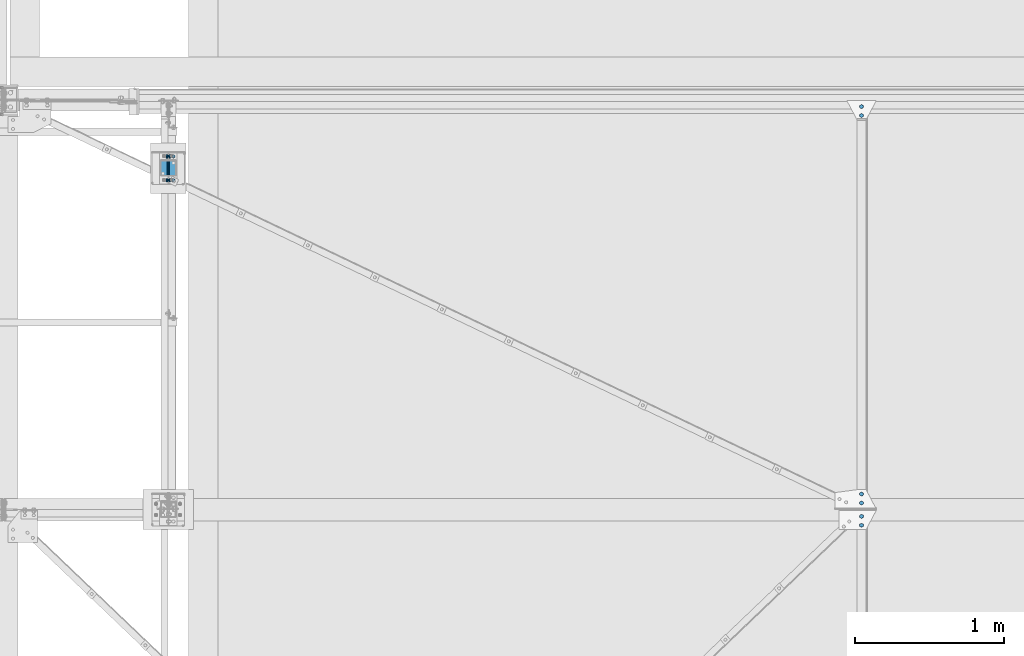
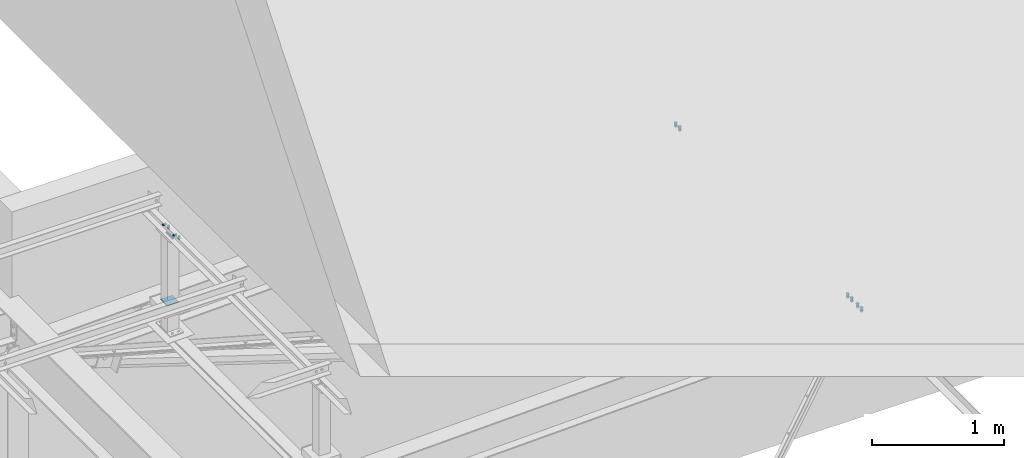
# One storey, part 220 of 3134: 7 mechanical fasteners, 4 elements without a shape of their own.
"""IFC2X3 building model written with IfcOpenShell, lengths in millimetres."""

from ifc_helpers import new_model, si_unit, frame, origin_with_axes, place, context, subcontext, project, spatial, faceted_brep, source, transform, mapped, material, type_object, element, aggregate, save


model = new_model("IFC2X3")

# Units and contexts
model_context = context("Model", 3, precision=1e-05, world=origin_with_axes())
body_context = subcontext(model_context, "Body", "Model", "MODEL_VIEW")
ifc_project = project(units=[si_unit("LENGTHUNIT", "METRE", prefix="MILLI"), si_unit("AREAUNIT", "SQUARE_METRE"), si_unit("VOLUMEUNIT", "CUBIC_METRE"), si_unit("MASSUNIT", "GRAM", prefix="KILO"), si_unit("TIMEUNIT", "SECOND"), si_unit("PLANEANGLEUNIT", "RADIAN"), si_unit("SOLIDANGLEUNIT", "STERADIAN"), si_unit("THERMODYNAMICTEMPERATUREUNIT", "DEGREE_CELSIUS"), si_unit("LUMINOUSINTENSITYUNIT", "LUMEN")], contexts=[model_context])

# Site, building, storey
site_placement = place(None, origin_with_axes())
site = spatial("IfcSite", under=ifc_project, at=site_placement, CompositionType="ELEMENT")
building_placement = place(site_placement, origin_with_axes())
building = spatial("IfcBuilding", under=site, at=building_placement, Name="Undefined", CompositionType="ELEMENT")
storey_placement = place(building_placement, origin_with_axes())
storey = spatial("IfcBuildingStorey", under=building, at=storey_placement, Name="Undefined", CompositionType="ELEMENT", Elevation=0.0)

# Assembly, mechanical fastener
assembly_1_placement = place(storey_placement, origin_with_axes())
assembly_1 = element("IfcElementAssembly", 1, at=assembly_1_placement, inside=storey, AssemblyPlace="NOTDEFINED", PredefinedType="RIGID_FRAME")
ifc_material_1 = material(Name="8.8")
mechanical_fastener_type = type_object("IfcMechanicalFastenerType", Name="Bolt assembly")
shared_shape_1 = source(origin_with_axes(), body_context, "Body", "Brep", [
    faceted_brep([(10.9696551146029, -14.0, 0.0), (5.48482755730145, -14.0, 9.5), (-5.48482755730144, -14.0, 9.5), (-10.9696551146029, -14.0, 1.34339530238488e-15), (-5.48482755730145, -14.0, -9.5), (5.48482755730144, -14.0, -9.50000000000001), (5.48482755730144, -6.0, -9.50000000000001), (-5.48482755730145, -6.0, -9.5), (-10.9696551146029, -6.0, 1.34339530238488e-15), (-5.48482755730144, -6.0, 9.5), (5.48482755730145, -6.0, 9.5), (10.9696551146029, -6.0, 0.0), (6.0, -6.0, 0.0), (5.19615242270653, -6.0, 3.00000000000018), (2.99999999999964, -6.0, 5.19615242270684), (-6.21801588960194e-13, -6.0, 6.0), (-3.00000000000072, -6.0, 5.19615242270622), (-5.19615242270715, -6.0, 2.9999999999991), (-6.0, -6.0, -1.24360317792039e-12), (-5.19615242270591, -6.0, -3.00000000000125), (-2.99999999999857, -6.0, -5.19615242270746), (1.85874342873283e-12, -6.0, -6.0), (3.00000000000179, -6.0, -5.1961524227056), (5.19615242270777, -6.0, -2.99999999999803), (5.19615242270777, 24.0, -2.99999999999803), (3.00000000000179, 24.0, -5.1961524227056), (1.85874342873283e-12, 24.0, -6.0), (-2.99999999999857, 24.0, -5.19615242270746), (-5.19615242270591, 24.0, -3.00000000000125), (-6.0, 24.0, -1.24360317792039e-12), (-5.19615242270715, 24.0, 2.9999999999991), (-3.00000000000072, 24.0, 5.19615242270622), (-6.21801588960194e-13, 24.0, 6.0), (2.99999999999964, 24.0, 5.19615242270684), (5.19615242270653, 24.0, 3.00000000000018), (6.0, 24.0, 0.0), (10.9696551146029, 6.00000000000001, 0.0), (5.48482755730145, 6.00000000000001, 9.5), (-5.48482755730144, 6.00000000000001, 9.5), (-10.9696551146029, 6.00000000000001, 1.34339530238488e-15), (-5.48482755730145, 6.00000000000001, -9.5), (5.48482755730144, 6.00000000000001, -9.50000000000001), (5.48482755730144, 16.0, -9.50000000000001), (-5.48482755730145, 16.0, -9.5), (-10.9696551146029, 16.0, 1.34339530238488e-15), (-5.48482755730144, 16.0, 9.5), (5.48482755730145, 16.0, 9.5), (10.9696551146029, 16.0, 0.0)], [[[0, 1, 2, 3, 4, 5]], [[6, 7, 8, 9, 10, 11]], [[0, 11, 10, 1]], [[1, 10, 9, 2]], [[2, 9, 8, 3]], [[3, 8, 7, 4]], [[4, 7, 6, 5]], [[5, 6, 11, 0]], [[12, 13, 14, 15, 16, 17, 18, 19, 20, 21, 22, 23]], [[24, 25, 26, 27, 28, 29, 30, 31, 32, 33, 34, 35]], [[12, 35, 34, 13]], [[13, 34, 33, 14]], [[14, 33, 32, 15]], [[15, 32, 31, 16]], [[16, 31, 30, 17]], [[17, 30, 29, 18]], [[18, 29, 28, 19]], [[19, 28, 27, 20]], [[20, 27, 26, 21]], [[21, 26, 25, 22]], [[22, 25, 24, 23]], [[23, 24, 35, 12]], [[36, 37, 38, 39, 40, 41]], [[42, 43, 44, 45, 46, 47]], [[36, 47, 46, 37]], [[37, 46, 45, 38]], [[38, 45, 44, 39]], [[39, 44, 43, 40]], [[40, 43, 42, 41]], [[41, 42, 47, 36]]]),
    faceted_brep([(7.0, -5.9, 0.0), (6.06217782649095, -5.9, 3.50000000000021), (3.49999999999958, -5.9, 6.06217782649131), (-7.25435187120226e-13, -5.9, 7.0), (-3.50000000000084, -5.9, 6.06217782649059), (-6.06217782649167, -5.9, 3.49999999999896), (-7.0, -5.9, -1.45087037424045e-12), (-6.06217782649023, -5.9, -3.50000000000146), (-3.49999999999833, -5.9, -6.06217782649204), (2.1685340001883e-12, -5.9, -7.0), (3.50000000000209, -5.9, -6.06217782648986), (6.0621778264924, -5.9, -3.4999999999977), (6.0621778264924, 0.0999999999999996, -3.4999999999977), (3.50000000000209, 0.0999999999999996, -6.06217782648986), (2.1685340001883e-12, 0.0999999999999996, -7.0), (-3.49999999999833, 0.0999999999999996, -6.06217782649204), (-6.06217782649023, 0.0999999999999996, -3.50000000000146), (-7.0, 0.0999999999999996, -1.45087037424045e-12), (-6.06217782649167, 0.0999999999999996, 3.49999999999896), (-3.50000000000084, 0.0999999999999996, 6.06217782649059), (-7.25435187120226e-13, 0.0999999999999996, 7.0), (3.49999999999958, 0.0999999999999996, 6.06217782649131), (6.06217782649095, 0.0999999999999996, 3.50000000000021), (7.0, 0.0999999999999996, 0.0), (7.0, -0.1, 0.0), (6.06217782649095, -0.1, 3.50000000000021), (3.49999999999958, -0.1, 6.06217782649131), (-7.25435187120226e-13, -0.1, 7.0), (-3.50000000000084, -0.1, 6.06217782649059), (-6.06217782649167, -0.1, 3.49999999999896), (-7.0, -0.1, -1.45087037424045e-12), (-6.06217782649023, -0.1, -3.50000000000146), (-3.49999999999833, -0.1, -6.06217782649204), (2.1685340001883e-12, -0.1, -7.0), (3.50000000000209, -0.1, -6.06217782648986), (6.0621778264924, -0.1, -3.4999999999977), (6.0621778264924, 6.00000000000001, -3.4999999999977), (3.50000000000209, 6.00000000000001, -6.06217782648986), (2.1685340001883e-12, 6.00000000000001, -7.0), (-3.49999999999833, 6.00000000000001, -6.06217782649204), (-6.06217782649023, 6.00000000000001, -3.50000000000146), (-7.0, 6.00000000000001, -1.45087037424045e-12), (-6.06217782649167, 6.00000000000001, 3.49999999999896), (-3.50000000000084, 6.00000000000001, 6.06217782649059), (-7.25435187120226e-13, 6.00000000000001, 7.0), (3.49999999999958, 6.00000000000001, 6.06217782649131), (6.06217782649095, 6.00000000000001, 3.50000000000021), (7.0, 6.00000000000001, 0.0)], [[[0, 1, 2, 3, 4, 5, 6, 7, 8, 9, 10, 11]], [[12, 13, 14, 15, 16, 17, 18, 19, 20, 21, 22, 23]], [[0, 23, 22, 1]], [[1, 22, 21, 2]], [[2, 21, 20, 3]], [[3, 20, 19, 4]], [[4, 19, 18, 5]], [[5, 18, 17, 6]], [[6, 17, 16, 7]], [[7, 16, 15, 8]], [[8, 15, 14, 9]], [[9, 14, 13, 10]], [[10, 13, 12, 11]], [[11, 12, 23, 0]], [[24, 25, 26, 27, 28, 29, 30, 31, 32, 33, 34, 35]], [[36, 37, 38, 39, 40, 41, 42, 43, 44, 45, 46, 47]], [[24, 47, 46, 25]], [[25, 46, 45, 26]], [[26, 45, 44, 27]], [[27, 44, 43, 28]], [[28, 43, 42, 29]], [[29, 42, 41, 30]], [[30, 41, 40, 31]], [[31, 40, 39, 32]], [[32, 39, 38, 33]], [[33, 38, 37, 34]], [[34, 37, 36, 35]], [[35, 36, 47, 24]]]),
])
mechanical_fastener_1_placement = place(assembly_1_placement, frame((10440.0, 47985.0, 4265.0), z_axis=(-1.0, 0.0, 0.0), x_axis=(0.0, 1.0, 0.0)))
mechanical_fastener_1 = element("IfcMechanicalFastener", 2, at=mechanical_fastener_1_placement, type_object=mechanical_fastener_type, material=ifc_material_1, Name="Bolt assembly", NominalDiameter=12.0, NominalLength=30.0, context=body_context, shape_type="MappedRepresentation", body=[
    mapped(shared_shape_1, transform((0.0, 0.0, 0.0))),
    mapped(shared_shape_1, transform((160.0, 0.0, 0.0))),
])

assembly_2_placement = place(storey_placement, origin_with_axes())
assembly_2 = element("IfcElementAssembly", 3, at=assembly_2_placement, inside=storey, AssemblyPlace="NOTDEFINED", PredefinedType="RIGID_FRAME")
shared_shape_2 = source(origin_with_axes(), body_context, "Body", "Brep", [
    faceted_brep([(10.9696551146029, -14.0, 0.0), (5.48482755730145, -14.0, 9.5), (-5.48482755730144, -14.0, 9.5), (-10.9696551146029, -14.0, 1.34339530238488e-15), (-5.48482755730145, -14.0, -9.5), (5.48482755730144, -14.0, -9.50000000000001), (5.48482755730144, -6.0, -9.50000000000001), (-5.48482755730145, -6.0, -9.5), (-10.9696551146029, -6.0, 1.34339530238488e-15), (-5.48482755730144, -6.0, 9.5), (5.48482755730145, -6.0, 9.5), (10.9696551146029, -6.0, 0.0), (6.0, -6.0, 0.0), (5.19615242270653, -6.0, 3.00000000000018), (2.99999999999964, -6.0, 5.19615242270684), (-6.21801588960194e-13, -6.0, 6.0), (-3.00000000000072, -6.0, 5.19615242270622), (-5.19615242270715, -6.0, 2.9999999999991), (-6.0, -6.0, -1.24360317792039e-12), (-5.19615242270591, -6.0, -3.00000000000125), (-2.99999999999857, -6.0, -5.19615242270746), (1.85874342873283e-12, -6.0, -6.0), (3.00000000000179, -6.0, -5.1961524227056), (5.19615242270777, -6.0, -2.99999999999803), (5.19615242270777, 19.0, -2.99999999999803), (3.00000000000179, 19.0, -5.1961524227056), (1.85874342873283e-12, 19.0, -6.0), (-2.99999999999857, 19.0, -5.19615242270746), (-5.19615242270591, 19.0, -3.00000000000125), (-6.0, 19.0, -1.24360317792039e-12), (-5.19615242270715, 19.0, 2.9999999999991), (-3.00000000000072, 19.0, 5.19615242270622), (-6.21801588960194e-13, 19.0, 6.0), (2.99999999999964, 19.0, 5.19615242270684), (5.19615242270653, 19.0, 3.00000000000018), (6.0, 19.0, 0.0), (10.9696551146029, 4.00000000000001, 0.0), (5.48482755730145, 4.00000000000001, 9.5), (-5.48482755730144, 4.00000000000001, 9.5), (-10.9696551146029, 4.00000000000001, 1.34339530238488e-15), (-5.48482755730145, 4.00000000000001, -9.5), (5.48482755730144, 4.00000000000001, -9.50000000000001), (5.48482755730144, 14.0, -9.50000000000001), (-5.48482755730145, 14.0, -9.5), (-10.9696551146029, 14.0, 1.34339530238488e-15), (-5.48482755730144, 14.0, 9.5), (5.48482755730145, 14.0, 9.5), (10.9696551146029, 14.0, 0.0)], [[[0, 1, 2, 3, 4, 5]], [[6, 7, 8, 9, 10, 11]], [[0, 11, 10, 1]], [[1, 10, 9, 2]], [[2, 9, 8, 3]], [[3, 8, 7, 4]], [[4, 7, 6, 5]], [[5, 6, 11, 0]], [[12, 13, 14, 15, 16, 17, 18, 19, 20, 21, 22, 23]], [[24, 25, 26, 27, 28, 29, 30, 31, 32, 33, 34, 35]], [[12, 35, 34, 13]], [[13, 34, 33, 14]], [[14, 33, 32, 15]], [[15, 32, 31, 16]], [[16, 31, 30, 17]], [[17, 30, 29, 18]], [[18, 29, 28, 19]], [[19, 28, 27, 20]], [[20, 27, 26, 21]], [[21, 26, 25, 22]], [[22, 25, 24, 23]], [[23, 24, 35, 12]], [[36, 37, 38, 39, 40, 41]], [[42, 43, 44, 45, 46, 47]], [[36, 47, 46, 37]], [[37, 46, 45, 38]], [[38, 45, 44, 39]], [[39, 44, 43, 40]], [[40, 43, 42, 41]], [[41, 42, 47, 36]]]),
    faceted_brep([(7.0, -5.9, 0.0), (6.06217782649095, -5.9, 3.50000000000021), (3.49999999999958, -5.9, 6.06217782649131), (-7.25435187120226e-13, -5.9, 7.0), (-3.50000000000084, -5.9, 6.06217782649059), (-6.06217782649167, -5.9, 3.49999999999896), (-7.0, -5.9, -1.45087037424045e-12), (-6.06217782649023, -5.9, -3.50000000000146), (-3.49999999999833, -5.9, -6.06217782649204), (2.1685340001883e-12, -5.9, -7.0), (3.50000000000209, -5.9, -6.06217782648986), (6.0621778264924, -5.9, -3.4999999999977), (6.0621778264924, 0.0999999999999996, -3.4999999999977), (3.50000000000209, 0.0999999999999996, -6.06217782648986), (2.1685340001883e-12, 0.0999999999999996, -7.0), (-3.49999999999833, 0.0999999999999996, -6.06217782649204), (-6.06217782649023, 0.0999999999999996, -3.50000000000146), (-7.0, 0.0999999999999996, -1.45087037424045e-12), (-6.06217782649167, 0.0999999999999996, 3.49999999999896), (-3.50000000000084, 0.0999999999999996, 6.06217782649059), (-7.25435187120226e-13, 0.0999999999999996, 7.0), (3.49999999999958, 0.0999999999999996, 6.06217782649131), (6.06217782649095, 0.0999999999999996, 3.50000000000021), (7.0, 0.0999999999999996, 0.0), (7.0, -0.1, 0.0), (6.06217782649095, -0.1, 3.50000000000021), (3.49999999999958, -0.1, 6.06217782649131), (-7.25435187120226e-13, -0.1, 7.0), (-3.50000000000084, -0.1, 6.06217782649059), (-6.06217782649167, -0.1, 3.49999999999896), (-7.0, -0.1, -1.45087037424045e-12), (-6.06217782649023, -0.1, -3.50000000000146), (-3.49999999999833, -0.1, -6.06217782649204), (2.1685340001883e-12, -0.1, -7.0), (3.50000000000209, -0.1, -6.06217782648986), (6.0621778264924, -0.1, -3.4999999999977), (6.0621778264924, 4.00000000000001, -3.4999999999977), (3.50000000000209, 4.00000000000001, -6.06217782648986), (2.1685340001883e-12, 4.00000000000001, -7.0), (-3.49999999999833, 4.00000000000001, -6.06217782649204), (-6.06217782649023, 4.00000000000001, -3.50000000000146), (-7.0, 4.00000000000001, -1.45087037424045e-12), (-6.06217782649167, 4.00000000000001, 3.49999999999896), (-3.50000000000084, 4.00000000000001, 6.06217782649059), (-7.25435187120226e-13, 4.00000000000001, 7.0), (3.49999999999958, 4.00000000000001, 6.06217782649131), (6.06217782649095, 4.00000000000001, 3.50000000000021), (7.0, 4.00000000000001, 0.0)], [[[0, 1, 2, 3, 4, 5, 6, 7, 8, 9, 10, 11]], [[12, 13, 14, 15, 16, 17, 18, 19, 20, 21, 22, 23]], [[0, 23, 22, 1]], [[1, 22, 21, 2]], [[2, 21, 20, 3]], [[3, 20, 19, 4]], [[4, 19, 18, 5]], [[5, 18, 17, 6]], [[6, 17, 16, 7]], [[7, 16, 15, 8]], [[8, 15, 14, 9]], [[9, 14, 13, 10]], [[10, 13, 12, 11]], [[11, 12, 23, 0]], [[24, 25, 26, 27, 28, 29, 30, 31, 32, 33, 34, 35]], [[36, 37, 38, 39, 40, 41, 42, 43, 44, 45, 46, 47]], [[24, 47, 46, 25]], [[25, 46, 45, 26]], [[26, 45, 44, 27]], [[27, 44, 43, 28]], [[28, 43, 42, 29]], [[29, 42, 41, 30]], [[30, 41, 40, 31]], [[31, 40, 39, 32]], [[32, 39, 38, 33]], [[33, 38, 37, 34]], [[34, 37, 36, 35]], [[35, 36, 47, 24]]]),
])
mechanical_fastener_2_placement = place(assembly_2_placement, frame((10405.0, 47985.0, 4300.0), z_axis=(0.0, 0.0, 1.0), x_axis=(0.0, 1.0, 0.0)))
mechanical_fastener_2 = element("IfcMechanicalFastener", 4, at=mechanical_fastener_2_placement, type_object=mechanical_fastener_type, material=ifc_material_1, Name="Bolt assembly", NominalDiameter=12.0, NominalLength=25.0, context=body_context, shape_type="MappedRepresentation", body=[
    mapped(shared_shape_2, transform((0.0, 0.0, 0.0))),
    mapped(shared_shape_2, transform((160.0, 0.0, 0.0))),
])
aggregate(assembly_2, [mechanical_fastener_2])

# Assembly, mechanical fasteners
assembly_3_placement = place(storey_placement, origin_with_axes())
assembly_3 = element("IfcElementAssembly", 5, at=assembly_3_placement, inside=storey, Name="300", AssemblyPlace="NOTDEFINED", PredefinedType="RIGID_FRAME")
shared_shape_3 = source(origin_with_axes(), body_context, "Body", "Brep", [
    faceted_brep([(13.856406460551, -21.0000017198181, 0.0), (6.92820323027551, -21.0000017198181, 12.0), (-6.92820323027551, -21.0000017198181, 12.0), (-13.856406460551, -21.0000017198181, 1.69692038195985e-15), (-6.92820323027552, -21.0000017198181, -12.0), (6.9282032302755, -21.0000017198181, -12.0), (6.9282032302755, -11.0000017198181, -12.0), (-6.92820323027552, -11.0000017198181, -12.0), (-13.856406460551, -11.0000017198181, 1.69692038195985e-15), (-6.92820323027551, -11.0000017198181, 12.0), (6.92820323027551, -11.0000017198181, 12.0), (13.856406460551, -11.0000017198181, 0.0), (8.0, -11.0000017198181, 0.0), (6.92820323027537, -11.0000017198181, 4.00000000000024), (3.99999999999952, -11.0000017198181, 6.92820323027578), (-8.29068785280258e-13, -11.0000017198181, 8.0), (-4.00000000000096, -11.0000017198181, 6.92820323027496), (-6.9282032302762, -11.0000017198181, 3.99999999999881), (-8.0, -11.0000017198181, -1.65813757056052e-12), (-6.92820323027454, -11.0000017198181, -4.00000000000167), (-3.99999999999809, -11.0000017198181, -6.92820323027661), (2.47832457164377e-12, -11.0000017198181, -8.0), (4.00000000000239, -11.0000017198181, -6.92820323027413), (6.92820323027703, -11.0000017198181, -3.99999999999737), (6.92820323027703, 23.9999999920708, -3.99999999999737), (4.00000000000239, 23.9999999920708, -6.92820323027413), (2.47832457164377e-12, 23.9999999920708, -8.0), (-3.99999999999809, 23.9999999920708, -6.92820323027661), (-6.92820323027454, 23.9999999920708, -4.00000000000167), (-8.0, 23.9999999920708, -1.65813757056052e-12), (-6.9282032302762, 23.9999999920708, 3.99999999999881), (-4.00000000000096, 23.9999999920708, 6.92820323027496), (-8.29068785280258e-13, 23.9999999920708, 8.0), (3.99999999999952, 23.9999999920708, 6.92820323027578), (6.92820323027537, 23.9999999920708, 4.00000000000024), (8.0, 23.9999999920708, 0.0), (13.856406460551, 3.99999999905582, 0.0), (6.92820323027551, 3.99999999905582, 12.0), (-6.92820323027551, 3.99999999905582, 12.0), (-13.856406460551, 3.99999999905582, 1.69692038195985e-15), (-6.92820323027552, 3.99999999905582, -12.0), (6.9282032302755, 3.99999999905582, -12.0), (6.9282032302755, 16.9999999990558, -12.0), (-6.92820323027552, 16.9999999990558, -12.0), (-13.856406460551, 16.9999999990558, 1.69692038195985e-15), (-6.92820323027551, 16.9999999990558, 12.0), (6.92820323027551, 16.9999999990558, 12.0), (13.856406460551, 16.9999999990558, 0.0)], [[[0, 1, 2, 3, 4, 5]], [[6, 7, 8, 9, 10, 11]], [[0, 11, 10, 1]], [[1, 10, 9, 2]], [[2, 9, 8, 3]], [[3, 8, 7, 4]], [[4, 7, 6, 5]], [[5, 6, 11, 0]], [[12, 13, 14, 15, 16, 17, 18, 19, 20, 21, 22, 23]], [[24, 25, 26, 27, 28, 29, 30, 31, 32, 33, 34, 35]], [[12, 35, 34, 13]], [[13, 34, 33, 14]], [[14, 33, 32, 15]], [[15, 32, 31, 16]], [[16, 31, 30, 17]], [[17, 30, 29, 18]], [[18, 29, 28, 19]], [[19, 28, 27, 20]], [[20, 27, 26, 21]], [[21, 26, 25, 22]], [[22, 25, 24, 23]], [[23, 24, 35, 12]], [[36, 37, 38, 39, 40, 41]], [[42, 43, 44, 45, 46, 47]], [[36, 47, 46, 37]], [[37, 46, 45, 38]], [[38, 45, 44, 39]], [[39, 44, 43, 40]], [[40, 43, 42, 41]], [[41, 42, 47, 36]]]),
    faceted_brep([(9.0, -10.9000017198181, 0.0), (7.79422863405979, -10.9000017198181, 4.50000000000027), (4.49999999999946, -10.9000017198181, 7.79422863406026), (-9.3270238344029e-13, -10.9000017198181, 9.0), (-4.50000000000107, -10.9000017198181, 7.79422863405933), (-7.79422863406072, -10.9000017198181, 4.49999999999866), (-9.0, -10.9000017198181, -1.86540476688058e-12), (-7.79422863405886, -10.9000017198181, -4.50000000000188), (-4.49999999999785, -10.9000017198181, -7.79422863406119), (2.78811514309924e-12, -10.9000017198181, -9.0), (4.50000000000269, -10.9000017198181, -7.7942286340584), (7.79422863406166, -10.9000017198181, -4.49999999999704), (7.79422863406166, -3.9, -4.49999999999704), (4.50000000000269, -3.9, -7.7942286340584), (2.78811514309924e-12, -3.9, -9.0), (-4.49999999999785, -3.9, -7.79422863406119), (-7.79422863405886, -3.9, -4.50000000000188), (-9.0, -3.9, -1.86540476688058e-12), (-7.79422863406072, -3.9, 4.49999999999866), (-4.50000000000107, -3.9, 7.79422863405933), (-9.3270238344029e-13, -3.9, 9.0), (4.49999999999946, -3.9, 7.79422863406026), (7.79422863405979, -3.9, 4.50000000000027), (9.0, -3.9, 0.0), (9.0, -4.10000000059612, 0.0), (7.79422863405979, -4.10000000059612, 4.50000000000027), (4.49999999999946, -4.10000000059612, 7.79422863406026), (-9.3270238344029e-13, -4.10000000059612, 9.0), (-4.50000000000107, -4.10000000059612, 7.79422863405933), (-7.79422863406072, -4.10000000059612, 4.49999999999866), (-9.0, -4.10000000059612, -1.86540476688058e-12), (-7.79422863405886, -4.10000000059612, -4.50000000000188), (-4.49999999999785, -4.10000000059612, -7.79422863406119), (2.78811514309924e-12, -4.10000000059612, -9.0), (4.50000000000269, -4.10000000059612, -7.7942286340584), (7.79422863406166, -4.10000000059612, -4.49999999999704), (7.79422863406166, 4.00000375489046, -4.49999999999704), (4.50000000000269, 4.00000375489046, -7.7942286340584), (2.78811514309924e-12, 4.00000375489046, -9.0), (-4.49999999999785, 4.00000375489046, -7.79422863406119), (-7.79422863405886, 4.00000375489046, -4.50000000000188), (-9.0, 4.00000375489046, -1.86540476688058e-12), (-7.79422863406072, 4.00000375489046, 4.49999999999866), (-4.50000000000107, 4.00000375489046, 7.79422863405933), (-9.3270238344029e-13, 4.00000375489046, 9.0), (4.49999999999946, 4.00000375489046, 7.79422863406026), (7.79422863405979, 4.00000375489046, 4.50000000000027), (9.0, 4.00000375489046, 0.0)], [[[0, 1, 2, 3, 4, 5, 6, 7, 8, 9, 10, 11]], [[12, 13, 14, 15, 16, 17, 18, 19, 20, 21, 22, 23]], [[0, 23, 22, 1]], [[1, 22, 21, 2]], [[2, 21, 20, 3]], [[3, 20, 19, 4]], [[4, 19, 18, 5]], [[5, 18, 17, 6]], [[6, 17, 16, 7]], [[7, 16, 15, 8]], [[8, 15, 14, 9]], [[9, 14, 13, 10]], [[10, 13, 12, 11]], [[11, 12, 23, 0]], [[24, 25, 26, 27, 28, 29, 30, 31, 32, 33, 34, 35]], [[36, 37, 38, 39, 40, 41, 42, 43, 44, 45, 46, 47]], [[24, 47, 46, 25]], [[25, 46, 45, 26]], [[26, 45, 44, 27]], [[27, 44, 43, 28]], [[28, 43, 42, 29]], [[29, 42, 41, 30]], [[30, 41, 40, 31]], [[31, 40, 39, 32]], [[32, 39, 38, 33]], [[33, 38, 37, 34]], [[34, 37, 36, 35]], [[35, 36, 47, 24]]]),
])
mechanical_fastener_3_placement = place(assembly_3_placement, frame((15072.5010771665, 45871.669366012, 3386.3529376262), z_axis=(0.999519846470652, 0.0, 0.0309851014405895), x_axis=(0.0, -1.0, 0.0)))
mechanical_fastener_3 = element("IfcMechanicalFastener", 6, at=mechanical_fastener_3_placement, type_object=mechanical_fastener_type, material=ifc_material_1, Name="Bolt assembly", NominalDiameter=16.0, NominalLength=35.0, context=body_context, shape_type="MappedRepresentation", body=[
    mapped(shared_shape_3, transform((0.0, 0.0, 0.0))),
    mapped(shared_shape_3, transform((59.9999999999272, 0.0, 5.40239852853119e-10))),
])
mechanical_fastener_4_placement = place(assembly_3_placement, frame((15072.5010771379, 45661.67, 3386.35293761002), z_axis=(-0.999519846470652, 0.0, -0.0309851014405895), x_axis=(0.0, 1.0, 0.0)))
mechanical_fastener_4 = element("IfcMechanicalFastener", 7, at=mechanical_fastener_4_placement, type_object=mechanical_fastener_type, material=ifc_material_1, Name="Bolt assembly", NominalDiameter=16.0, NominalLength=35.0, context=body_context, shape_type="MappedRepresentation", body=[
    mapped(shared_shape_3, transform((0.0, 0.0, 0.0))),
    mapped(shared_shape_3, transform((59.9999999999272, 0.0, 5.40239852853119e-10))),
])
aggregate(assembly_3, [mechanical_fastener_3, mechanical_fastener_4])

# Assembly, mechanical fastener
assembly_4_placement = place(storey_placement, origin_with_axes())
assembly_4 = element("IfcElementAssembly", 8, at=assembly_4_placement, inside=storey, Name="300", AssemblyPlace="NOTDEFINED", PredefinedType="RIGID_FRAME")
mechanical_fastener_5_placement = place(assembly_4_placement, frame((15072.5010771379, 48420.0, 3386.35293761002), z_axis=(-0.999519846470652, 0.0, -0.0309851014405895), x_axis=(0.0, 1.0, 0.0)))
mechanical_fastener_5 = element("IfcMechanicalFastener", 9, at=mechanical_fastener_5_placement, type_object=mechanical_fastener_type, material=ifc_material_1, Name="Bolt assembly", NominalDiameter=16.0, NominalLength=35.0, context=body_context, shape_type="MappedRepresentation", body=[
    mapped(shared_shape_3, transform((0.0, 0.0, 0.0))),
    mapped(shared_shape_3, transform((59.9999999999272, 0.0, 5.40239852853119e-10))),
])
aggregate(assembly_4, [mechanical_fastener_5])

# Mechanical fastener
shared_shape_4 = source(origin_with_axes(), body_context, "Body", "Brep", [
    faceted_brep([(9.0, -50.0, 0.0), (7.79422863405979, -50.0, 4.50000000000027), (4.49999999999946, -50.0, 7.79422863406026), (-9.3270238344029e-13, -50.0, 9.0), (-4.50000000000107, -50.0, 7.79422863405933), (-7.79422863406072, -50.0, 4.49999999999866), (-9.0, -50.0, -1.86540476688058e-12), (-7.79422863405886, -50.0, -4.50000000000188), (-4.49999999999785, -50.0, -7.79422863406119), (2.78811514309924e-12, -50.0, -9.0), (4.50000000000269, -50.0, -7.7942286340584), (7.79422863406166, -50.0, -4.49999999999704), (7.79422863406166, 50.1, -4.49999999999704), (4.50000000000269, 50.1, -7.7942286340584), (2.78811514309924e-12, 50.1, -9.0), (-4.49999999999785, 50.1, -7.79422863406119), (-7.79422863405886, 50.1, -4.50000000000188), (-9.0, 50.1, -1.86540476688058e-12), (-7.79422863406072, 50.1, 4.49999999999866), (-4.50000000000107, 50.1, 7.79422863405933), (-9.3270238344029e-13, 50.1, 9.0), (4.49999999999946, 50.1, 7.79422863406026), (7.79422863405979, 50.1, 4.50000000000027), (9.0, 50.1, 0.0)], [[[0, 1, 2, 3, 4, 5, 6, 7, 8, 9, 10, 11]], [[12, 13, 14, 15, 16, 17, 18, 19, 20, 21, 22, 23]], [[0, 23, 22, 1]], [[1, 22, 21, 2]], [[2, 21, 20, 3]], [[3, 20, 19, 4]], [[4, 19, 18, 5]], [[5, 18, 17, 6]], [[6, 17, 16, 7]], [[7, 16, 15, 8]], [[8, 15, 14, 9]], [[9, 14, 13, 10]], [[10, 13, 12, 11]], [[11, 12, 23, 0]]]),
])
mechanical_fastener_6_placement = place(assembly_1_placement, frame((10405.0, 48065.0, 4245.0), z_axis=(-1.0, 0.0, 0.0), x_axis=(0.0, 0.0, 1.0)))
mechanical_fastener_6 = element("IfcMechanicalFastener", 10, at=mechanical_fastener_6_placement, type_object=mechanical_fastener_type, material=ifc_material_1, Name="Bolt assembly", NominalDiameter=16.0, NominalLength=100.0, context=body_context, shape_type="MappedRepresentation", body=[
    mapped(shared_shape_4, transform((0.0, 0.0, 0.0))),
])

ifc_material_2 = material(Name="6.8")
shared_shape_5 = source(origin_with_axes(), body_context, "Body", "Brep", [
    faceted_brep([(51.5, 1.36424205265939e-12, 50.0), (51.3858192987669, 1.36424205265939e-12, 50.5740251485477), (51.0606601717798, 1.36424205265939e-12, 51.0606601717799), (50.5740251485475, 1.36424205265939e-12, 51.385819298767), (-50.0000000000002, 1.36424205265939e-12, 51.5), (-50.7500000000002, 1.36424205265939e-12, 51.2990381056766), (-51.2990381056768, 1.36424205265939e-12, 50.7499999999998), (-51.5, 1.36424205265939e-12, 49.9999999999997), (-51.5, 1.36424205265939e-12, -50.0000000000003), (-51.2990381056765, 1.36424205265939e-12, -50.7500000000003), (-50.7499999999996, 1.36424205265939e-12, -51.2990381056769), (-49.9999999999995, 1.36424205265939e-12, -51.5), (50.0000000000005, 1.36424205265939e-12, -51.5), (50.7500000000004, 1.36424205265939e-12, -51.2990381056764), (51.2990381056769, 1.36424205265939e-12, -50.7499999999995), (51.5, 1.36424205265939e-12, -49.9999999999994), (51.5, 5.10000000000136, -49.9999999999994), (51.2990381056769, 5.10000000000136, -50.7499999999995), (50.7500000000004, 5.10000000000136, -51.2990381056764), (50.0000000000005, 5.10000000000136, -51.5), (-49.9999999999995, 5.10000000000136, -51.5), (-50.7499999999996, 5.10000000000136, -51.2990381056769), (-51.2990381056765, 5.10000000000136, -50.7500000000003), (-51.5, 5.10000000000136, -50.0000000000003), (-51.5, 5.10000000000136, 49.9999999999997), (-51.2990381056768, 5.10000000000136, 50.7499999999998), (-50.7500000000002, 5.10000000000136, 51.2990381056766), (-50.0000000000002, 5.10000000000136, 51.5), (50.5740251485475, 5.10000000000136, 51.385819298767), (51.0606601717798, 5.10000000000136, 51.0606601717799), (51.3858192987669, 5.10000000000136, 50.5740251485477), (51.5, 5.10000000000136, 50.0)], [[[0, 1, 2, 3, 4, 5, 6, 7, 8, 9, 10, 11, 12, 13, 14, 15]], [[16, 17, 18, 19, 20, 21, 22, 23, 24, 25, 26, 27, 28, 29, 30, 31]], [[0, 31, 30, 1]], [[1, 30, 29, 2]], [[2, 29, 28, 3]], [[3, 28, 27, 4]], [[4, 27, 26, 5]], [[5, 26, 25, 6]], [[6, 25, 24, 7]], [[7, 24, 23, 8]], [[8, 23, 22, 9]], [[9, 22, 21, 10]], [[10, 21, 20, 11]], [[11, 20, 19, 12]], [[12, 19, 18, 13]], [[13, 18, 17, 14]], [[14, 17, 16, 15]], [[15, 16, 31, 0]]]),
])
mechanical_fastener_7_placement = place(assembly_1_placement, frame((10405.0, 48065.0, 3643.81), z_axis=(0.0, -1.0, 0.0), x_axis=(-1.0, 0.0, 0.0)))
mechanical_fastener_7 = element("IfcMechanicalFastener", 11, at=mechanical_fastener_7_placement, type_object=mechanical_fastener_type, material=ifc_material_2, Name="Bolt assembly", NominalDiameter=10.0, NominalLength=5.0, context=body_context, shape_type="MappedRepresentation", body=[
    mapped(shared_shape_5, transform((0.0, 0.0, 0.0))),
])

aggregate(assembly_1, [mechanical_fastener_1, mechanical_fastener_6, mechanical_fastener_7])

save(model, "model.ifc")
